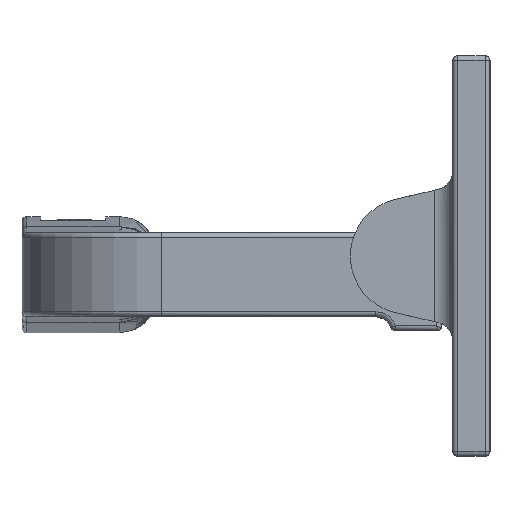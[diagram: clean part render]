
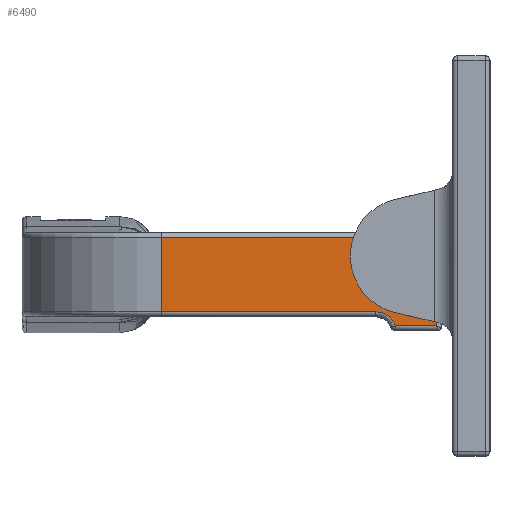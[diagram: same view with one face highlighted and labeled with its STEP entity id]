
A CAD part, left-side view. The second image highlights one B-rep face of the part: STEP entity #6490.
In plain terms, the highlighted planar face has unit normal (-1, 0, 0) as drawn and (1, 0, 0) by its records, which use the part's own axes.
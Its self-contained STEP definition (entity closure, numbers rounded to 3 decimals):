
#419 = LINE ( 'NONE', #16023, #4442 ) ;
#452 = VECTOR ( 'NONE', #1026, 1000. ) ;
#519 = EDGE_CURVE ( 'NONE', #19128, #1152, #1473, .T. ) ;
#540 = EDGE_CURVE ( 'NONE', #9513, #14247, #8627, .T. ) ;
#729 = CARTESIAN_POINT ( 'NONE',  ( 54., -38., 0.5 ) ) ;
#926 = ORIENTED_EDGE ( 'NONE', *, *, #1305, .T. ) ;
#1026 = DIRECTION ( 'NONE',  ( 0., 1., 0. ) ) ;
#1152 = VERTEX_POINT ( 'NONE', #4823 ) ;
#1305 = EDGE_CURVE ( 'NONE', #6195, #19128, #12002, .T. ) ;
#1473 = CIRCLE ( 'NONE', #17855, 3.6 ) ;
#1810 = CARTESIAN_POINT ( 'NONE',  ( 54., -38., 0.5 ) ) ;
#2281 = VERTEX_POINT ( 'NONE', #1810 ) ;
#2317 = DIRECTION ( 'NONE',  ( 0., -1., 0. ) ) ;
#2379 = ORIENTED_EDGE ( 'NONE', *, *, #18926, .T. ) ;
#4442 = VECTOR ( 'NONE', #2317, 1000. ) ;
#4823 = CARTESIAN_POINT ( 'NONE',  ( 54., -38.728, 0.203 ) ) ;
#4831 = CARTESIAN_POINT ( 'NONE',  ( 54., -38., 8.5 ) ) ;
#5103 = ORIENTED_EDGE ( 'NONE', *, *, #13081, .T. ) ;
#5916 = PLANE ( 'NONE',  #13445 ) ;
#6000 = CARTESIAN_POINT ( 'NONE',  ( 54., -41.5, 2.5 ) ) ;
#6061 = DIRECTION ( 'NONE',  ( -1., 0., 0. ) ) ;
#6195 = VERTEX_POINT ( 'NONE', #12634 ) ;
#6205 = DIRECTION ( 'NONE',  ( 0., -1., 0. ) ) ;
#6271 = CARTESIAN_POINT ( 'NONE',  ( 54., -38.453, 8.536 ) ) ;
#6347 = LINE ( 'NONE', #17508, #17991 ) ;
#6490 = ADVANCED_FACE ( 'NONE', ( #17315 ), #5916, .F. ) ;
#6801 = EDGE_CURVE ( 'NONE', #13610, #17174, #6347, .T. ) ;
#6809 = CARTESIAN_POINT ( 'NONE',  ( 54., -38.491, 0.33 ) ) ;
#6846 = CARTESIAN_POINT ( 'NONE',  ( 54., -40.059, 10. ) ) ;
#7138 = CARTESIAN_POINT ( 'NONE',  ( 54., -38.229, 8.5 ) ) ;
#7201 = CARTESIAN_POINT ( 'NONE',  ( 54., -38., 8.5 ) ) ;
#7260 = CARTESIAN_POINT ( 'NONE',  ( 54., -38.777, 8.641 ) ) ;
#7319 = ORIENTED_EDGE ( 'NONE', *, *, #8775, .T. ) ;
#7395 = CARTESIAN_POINT ( 'NONE',  ( 54., -38.883, 8.685 ) ) ;
#7455 = CARTESIAN_POINT ( 'NONE',  ( 54., -39.084, 8.788 ) ) ;
#7475 = VECTOR ( 'NONE', #8154, 1000. ) ;
#7510 = CARTESIAN_POINT ( 'NONE',  ( 54., -39.18, 8.847 ) ) ;
#7589 = CARTESIAN_POINT ( 'NONE',  ( 54., -39.455, 9.046 ) ) ;
#7660 = CARTESIAN_POINT ( 'NONE',  ( 54., -39.62, 9.212 ) ) ;
#7723 = CARTESIAN_POINT ( 'NONE',  ( 54., -39.884, 9.578 ) ) ;
#7935 = CARTESIAN_POINT ( 'NONE',  ( 54., -39.989, 9.782 ) ) ;
#8154 = DIRECTION ( 'NONE',  ( 0., -1., 0. ) ) ;
#8435 = VECTOR ( 'NONE', #14774, 1000. ) ;
#8578 = ORIENTED_EDGE ( 'NONE', *, *, #519, .T. ) ;
#8627 = B_SPLINE_CURVE_WITH_KNOTS ( 'NONE', 3,
 ( #7201, #7138, #6271, #7260, #7395, #7455, #7510, #7589, #7660, #7723, #7935, #8667 ),
 .UNSPECIFIED., .F., .F.,
 ( 4, 2, 2, 2, 2, 4 ),
 ( 0., 0.001, 0.001, 0.001, 0.002, 0.003 ),
 .UNSPECIFIED. ) ;
#8667 = CARTESIAN_POINT ( 'NONE',  ( 54., -40.059, 10. ) ) ;
#8775 = EDGE_CURVE ( 'NONE', #13610, #9513, #19620, .T. ) ;
#8969 = DIRECTION ( 'NONE',  ( 0., -1., 0. ) ) ;
#9026 = LINE ( 'NONE', #19305, #452 ) ;
#9270 = CARTESIAN_POINT ( 'NONE',  ( 54., -44.5, 4.49 ) ) ;
#9513 = VERTEX_POINT ( 'NONE', #4831 ) ;
#9880 = CARTESIAN_POINT ( 'NONE',  ( 54., -38.246, 0.43 ) ) ;
#10194 = B_SPLINE_CURVE_WITH_KNOTS ( 'NONE', 3,
 ( #17456, #6809, #9880, #729 ),
 .UNSPECIFIED., .F., .F.,
 ( 4, 4 ),
 ( 0.578, 1. ),
 .UNSPECIFIED. ) ;
#12002 = LINE ( 'NONE', #14695, #8435 ) ;
#12349 = CARTESIAN_POINT ( 'NONE',  ( 54., -15., 8.5 ) ) ;
#12634 = CARTESIAN_POINT ( 'NONE',  ( 54., -44.5, 10. ) ) ;
#13052 = EDGE_CURVE ( 'NONE', #1152, #2281, #10194, .T. ) ;
#13081 = EDGE_CURVE ( 'NONE', #14247, #6195, #419, .T. ) ;
#13445 = AXIS2_PLACEMENT_3D ( 'NONE', #16560, #18094, #8969 ) ;
#13610 = VERTEX_POINT ( 'NONE', #12349 ) ;
#14247 = VERTEX_POINT ( 'NONE', #6846 ) ;
#14459 = DIRECTION ( 'NONE',  ( 0., 0., -1. ) ) ;
#14695 = CARTESIAN_POINT ( 'NONE',  ( 54., -44.5, 9. ) ) ;
#14774 = DIRECTION ( 'NONE',  ( 0., 0., -1. ) ) ;
#15939 = ORIENTED_EDGE ( 'NONE', *, *, #13052, .T. ) ;
#16023 = CARTESIAN_POINT ( 'NONE',  ( 54., -44.7, 10. ) ) ;
#16560 = CARTESIAN_POINT ( 'NONE',  ( 54., -15., 9. ) ) ;
#17174 = VERTEX_POINT ( 'NONE', #17666 ) ;
#17315 = FACE_OUTER_BOUND ( 'NONE', #19387, .T. ) ;
#17456 = CARTESIAN_POINT ( 'NONE',  ( 54., -38.728, 0.203 ) ) ;
#17508 = CARTESIAN_POINT ( 'NONE',  ( 54., -15., 9. ) ) ;
#17666 = CARTESIAN_POINT ( 'NONE',  ( 54., -15., 0.5 ) ) ;
#17855 = AXIS2_PLACEMENT_3D ( 'NONE', #6000, #6061, #6205 ) ;
#17991 = VECTOR ( 'NONE', #14459, 1000. ) ;
#18094 = DIRECTION ( 'NONE',  ( -1., 0., 0. ) ) ;
#18797 = CARTESIAN_POINT ( 'NONE',  ( 54., -45., 8.5 ) ) ;
#18926 = EDGE_CURVE ( 'NONE', #2281, #17174, #9026, .T. ) ;
#19128 = VERTEX_POINT ( 'NONE', #9270 ) ;
#19305 = CARTESIAN_POINT ( 'NONE',  ( 54., -15., 0.5 ) ) ;
#19387 = EDGE_LOOP ( 'NONE', ( #926, #8578, #15939, #2379, #19767, #7319, #19436, #5103 ) ) ;
#19436 = ORIENTED_EDGE ( 'NONE', *, *, #540, .T. ) ;
#19620 = LINE ( 'NONE', #18797, #7475 ) ;
#19767 = ORIENTED_EDGE ( 'NONE', *, *, #6801, .F. ) ;
